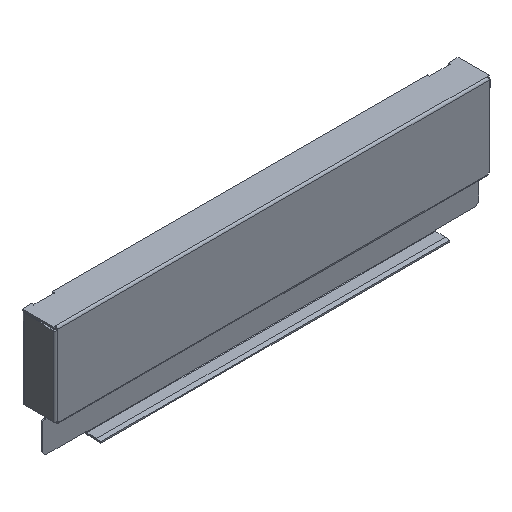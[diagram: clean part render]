
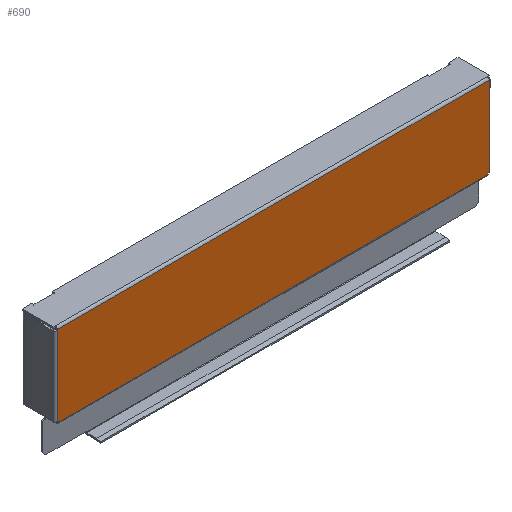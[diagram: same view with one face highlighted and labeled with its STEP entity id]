
A CAD part, isometric view. The second image highlights one B-rep face of the part: STEP entity #690.
In plain terms, the highlighted planar face has unit normal (0, -1, 0).
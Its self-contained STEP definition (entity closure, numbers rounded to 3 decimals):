
#70 = DIRECTION ( 'NONE',  ( 1., 0., 0. ) ) ;
#72 = DIRECTION ( 'NONE',  ( 0., -1., 0. ) ) ;
#73 = CARTESIAN_POINT ( 'NONE',  ( -105., -6., 17. ) ) ;
#74 = PLANE ( 'NONE',  #2427 ) ;
#294 = CARTESIAN_POINT ( 'NONE',  ( -104., -6., 56. ) ) ;
#306 = CARTESIAN_POINT ( 'NONE',  ( 104., -6., 17.5 ) ) ;
#323 = CARTESIAN_POINT ( 'NONE',  ( 104., -6., 56. ) ) ;
#333 = CARTESIAN_POINT ( 'NONE',  ( -103.5, -6., 17. ) ) ;
#343 = CARTESIAN_POINT ( 'NONE',  ( 103.5, -6., 17.5 ) ) ;
#346 = CARTESIAN_POINT ( 'NONE',  ( -104., -6., 55.5 ) ) ;
#362 = CARTESIAN_POINT ( 'NONE',  ( 103.5, -6., 17. ) ) ;
#367 = CARTESIAN_POINT ( 'NONE',  ( -104., -6., 17.5 ) ) ;
#368 = CARTESIAN_POINT ( 'NONE',  ( 104., -6., 55.5 ) ) ;
#370 = CARTESIAN_POINT ( 'NONE',  ( -103.5, -6., 17.5 ) ) ;
#444 = VERTEX_POINT ( 'NONE', #370 ) ;
#446 = VERTEX_POINT ( 'NONE', #368 ) ;
#447 = VERTEX_POINT ( 'NONE', #367 ) ;
#452 = VERTEX_POINT ( 'NONE', #362 ) ;
#468 = VERTEX_POINT ( 'NONE', #346 ) ;
#471 = VERTEX_POINT ( 'NONE', #343 ) ;
#493 = VERTEX_POINT ( 'NONE', #333 ) ;
#507 = VERTEX_POINT ( 'NONE', #323 ) ;
#522 = VERTEX_POINT ( 'NONE', #306 ) ;
#532 = VERTEX_POINT ( 'NONE', #294 ) ;
#690 = ADVANCED_FACE ( 'NONE', ( #1423 ), #74, .T. ) ;
#723 = DIRECTION ( 'NONE',  ( 1., 0., 0. ) ) ;
#728 = CARTESIAN_POINT ( 'NONE',  ( -105., -6., 17. ) ) ;
#740 = DIRECTION ( 'NONE',  ( 0., 0., -1. ) ) ;
#744 = CARTESIAN_POINT ( 'NONE',  ( -104., -6., 74.385 ) ) ;
#844 = EDGE_LOOP ( 'NONE', ( #1358, #1357, #1356, #1355, #1354, #1353, #1352, #1351, #1350, #1349 ) ) ;
#929 = DIRECTION ( 'NONE',  ( 0., 0., -1. ) ) ;
#935 = CARTESIAN_POINT ( 'NONE',  ( -103.5, -6., 17.5 ) ) ;
#949 = CARTESIAN_POINT ( 'NONE',  ( 103.5, -6., 15.3 ) ) ;
#953 = DIRECTION ( 'NONE',  ( 0., 0., 1. ) ) ;
#954 = DIRECTION ( 'NONE',  ( 1., 0., 0. ) ) ;
#955 = CARTESIAN_POINT ( 'NONE',  ( -105., -6., 17.5 ) ) ;
#959 = DIRECTION ( 'NONE',  ( 1., 0., 0. ) ) ;
#961 = CARTESIAN_POINT ( 'NONE',  ( 103.5, -6., 17.5 ) ) ;
#962 = DIRECTION ( 'NONE',  ( 0., 0., -1. ) ) ;
#964 = CARTESIAN_POINT ( 'NONE',  ( 104., -6., 74.385 ) ) ;
#965 = DIRECTION ( 'NONE',  ( 0., 0., -1. ) ) ;
#966 = CARTESIAN_POINT ( 'NONE',  ( 104., -6., 74.385 ) ) ;
#968 = DIRECTION ( 'NONE',  ( 1., 0., 0. ) ) ;
#970 = CARTESIAN_POINT ( 'NONE',  ( -105., -6., 56. ) ) ;
#971 = DIRECTION ( 'NONE',  ( 0., 0., -1. ) ) ;
#973 = CARTESIAN_POINT ( 'NONE',  ( -104., -6., 74.385 ) ) ;
#1349 = ORIENTED_EDGE ( 'NONE', *, *, #2304, .T. ) ;
#1350 = ORIENTED_EDGE ( 'NONE', *, *, #2305, .F. ) ;
#1351 = ORIENTED_EDGE ( 'NONE', *, *, #2306, .F. ) ;
#1352 = ORIENTED_EDGE ( 'NONE', *, *, #2307, .F. ) ;
#1353 = ORIENTED_EDGE ( 'NONE', *, *, #2308, .T. ) ;
#1354 = ORIENTED_EDGE ( 'NONE', *, *, #2310, .T. ) ;
#1355 = ORIENTED_EDGE ( 'NONE', *, *, #2317, .T. ) ;
#1356 = ORIENTED_EDGE ( 'NONE', *, *, #2312, .T. ) ;
#1357 = ORIENTED_EDGE ( 'NONE', *, *, #2309, .T. ) ;
#1358 = ORIENTED_EDGE ( 'NONE', *, *, #2315, .T. ) ;
#1423 = FACE_OUTER_BOUND ( 'NONE', #844, .T. ) ;
#1719 = LINE ( 'NONE', #973, #1720 ) ;
#1720 = VECTOR ( 'NONE', #971, 1000. ) ;
#1721 = LINE ( 'NONE', #970, #1722 ) ;
#1722 = VECTOR ( 'NONE', #968, 1000. ) ;
#1723 = LINE ( 'NONE', #966, #1724 ) ;
#1724 = VECTOR ( 'NONE', #965, 1000. ) ;
#1725 = LINE ( 'NONE', #964, #1726 ) ;
#1726 = VECTOR ( 'NONE', #962, 1000. ) ;
#1727 = LINE ( 'NONE', #961, #1728 ) ;
#1728 = VECTOR ( 'NONE', #959, 1000. ) ;
#1729 = LINE ( 'NONE', #955, #1730 ) ;
#1730 = VECTOR ( 'NONE', #954, 1000. ) ;
#1731 = LINE ( 'NONE', #949, #1732 ) ;
#1732 = VECTOR ( 'NONE', #953, 1000. ) ;
#1735 = LINE ( 'NONE', #935, #1736 ) ;
#1736 = VECTOR ( 'NONE', #929, 1000. ) ;
#1739 = LINE ( 'NONE', #744, #1741 ) ;
#1741 = VECTOR ( 'NONE', #740, 1000. ) ;
#1742 = LINE ( 'NONE', #728, #1744 ) ;
#1744 = VECTOR ( 'NONE', #723, 1000. ) ;
#2304 = EDGE_CURVE ( 'NONE', #532, #468, #1719, .T. ) ;
#2305 = EDGE_CURVE ( 'NONE', #532, #507, #1721, .T. ) ;
#2306 = EDGE_CURVE ( 'NONE', #507, #446, #1723, .T. ) ;
#2307 = EDGE_CURVE ( 'NONE', #446, #522, #1725, .T. ) ;
#2308 = EDGE_CURVE ( 'NONE', #471, #522, #1727, .T. ) ;
#2309 = EDGE_CURVE ( 'NONE', #447, #444, #1729, .T. ) ;
#2310 = EDGE_CURVE ( 'NONE', #452, #471, #1731, .T. ) ;
#2312 = EDGE_CURVE ( 'NONE', #444, #493, #1735, .T. ) ;
#2315 = EDGE_CURVE ( 'NONE', #468, #447, #1739, .T. ) ;
#2317 = EDGE_CURVE ( 'NONE', #493, #452, #1742, .T. ) ;
#2427 = AXIS2_PLACEMENT_3D ( 'NONE', #73, #72, #70 ) ;
